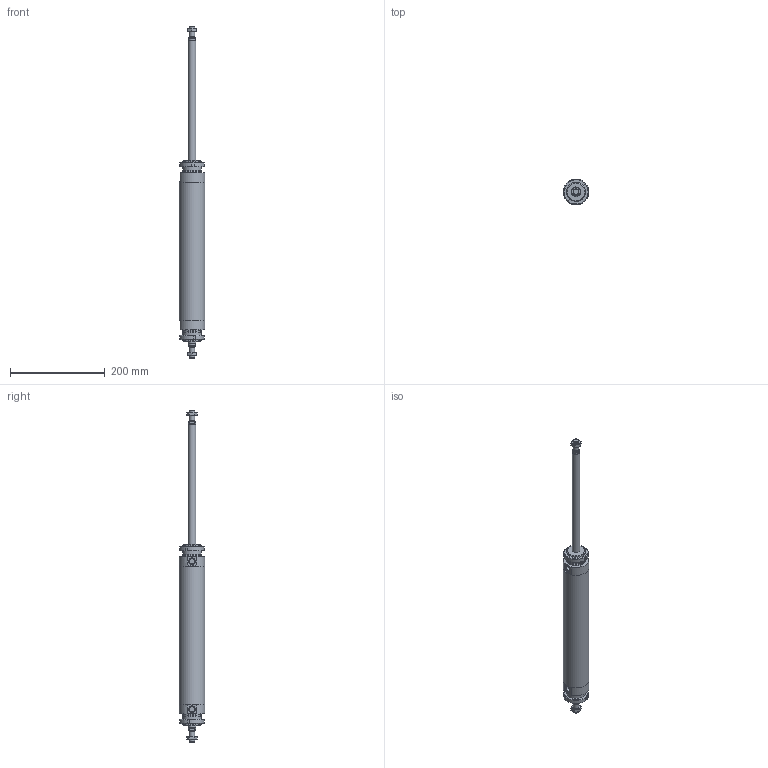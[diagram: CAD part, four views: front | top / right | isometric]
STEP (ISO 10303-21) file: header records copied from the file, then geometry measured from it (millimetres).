
FILE_DESCRIPTION(/* description */ (''),/* implementation_level */ '2;1');
FILE_NAME(/* name */ 'I:\Area Tecnica\Documenti\A-Manieri\_Inventor\12X\12X#S_###_####_#_#\12XCS_050_0250_#_#.stp',/* time_stamp */ '2015-05-08T14:19:07+02:00',/* author */ ('maniean1'),/* organization */ ('Pneumax S.p.A.'),/* preprocessor_version */ 'ST-DEVELOPER v15.2',/* originating_system */ 'Autodesk Inventor 2014',/* authorisation */ '');
FILE_SCHEMA (('AUTOMOTIVE_DESIGN { 1 0 10303 214 3 1 1 }'));
Length unit declared in the file: millimetre
Products named in the file (6): C1250_619-0250; 12X50_604; SP12X50_0250; 12X_50_11; G12X_050_05; 12XCS_050_0250_#_#
Bounding box: 54 x 54 x 702 mm (x, y, z)
Volume: 460553.5 mm3; surface area: 175856.8 mm2
Topology: 8 solids, 8 shells, 133 faces, 303 edges, 194 vertices
Faces by surface type: plane 66, cone 34, cylinder 33
Full cylindrical faces by diameter (mm): 10.2 x2, 11.4 x2, 12 x4, 14 x2, 15.6 x2, 16 x2, 38.2 x2, 40 x6, 50 x2, 54 x3
Entity records: 2300 total; most frequent: CARTESIAN_POINT 435, DIRECTION 388, ORIENTED_EDGE 310, AXIS2_PLACEMENT_3D 166, EDGE_CURVE 155, EDGE_LOOP 130, VERTEX_POINT 117, ADVANCED_FACE 85
